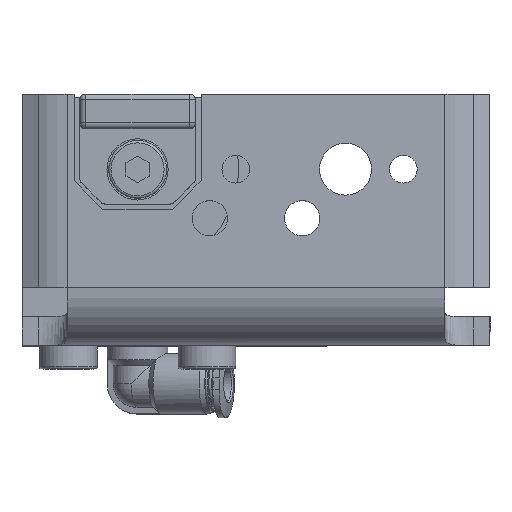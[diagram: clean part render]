
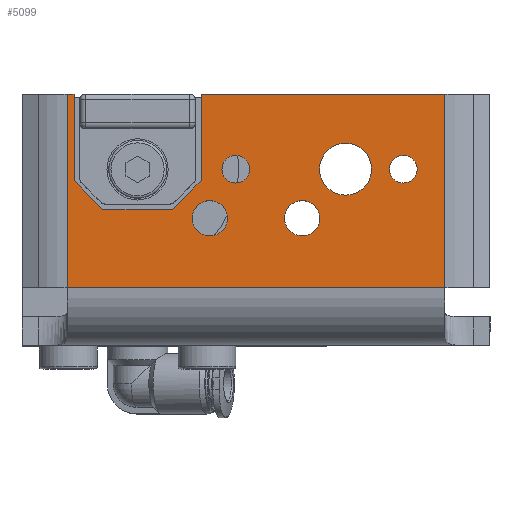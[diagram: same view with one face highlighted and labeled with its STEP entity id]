
A CAD part, top view. The second image highlights one B-rep face of the part: STEP entity #5099.
In plain terms, the highlighted planar face has unit normal (0, 0, 1).
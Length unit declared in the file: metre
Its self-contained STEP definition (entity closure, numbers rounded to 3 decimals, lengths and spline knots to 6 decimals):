
#36 = CARTESIAN_POINT ( 'NONE',  ( -0.011, 0.0385, -0.000106 ) ) ;
#137 = VERTEX_POINT ( 'NONE', #14690 ) ;
#158 = CARTESIAN_POINT ( 'NONE',  ( 0.0285, 0.01395, -0.000106 ) ) ;
#171 = VERTEX_POINT ( 'NONE', #7639 ) ;
#236 = FACE_BOUND ( 'NONE', #7807, .T. ) ;
#305 = CIRCLE ( 'NONE', #13828, 0.00305 ) ;
#331 = LINE ( 'NONE', #11222, #10167 ) ;
#396 = CARTESIAN_POINT ( 'NONE',  ( 0.006, 0.0185, -0.000106 ) ) ;
#506 = DIRECTION ( 'NONE',  ( 0., 0., -1. ) ) ;
#798 = DIRECTION ( 'NONE',  ( -0.707, -0.707, 0. ) ) ;
#1038 = ORIENTED_EDGE ( 'NONE', *, *, #6894, .T. ) ;
#1056 = DIRECTION ( 'NONE',  ( 1., 0., 0. ) ) ;
#1153 = CARTESIAN_POINT ( 'NONE',  ( 0.046, 0.0255, -0.000106 ) ) ;
#1185 = EDGE_CURVE ( 'NONE', #171, #171, #5802, .T. ) ;
#1228 = CARTESIAN_POINT ( 'NONE',  ( 0.036, 0.0255, -0.000106 ) ) ;
#1335 = CARTESIAN_POINT ( 'NONE',  ( 0.046, 0.0231, -0.000106 ) ) ;
#1507 = CIRCLE ( 'NONE', #7751, 0.00305 ) ;
#1533 = CARTESIAN_POINT ( 'NONE',  ( -0.006, 0.0185, -0.000106 ) ) ;
#1560 = VERTEX_POINT ( 'NONE', #396 ) ;
#1568 = PLANE ( 'NONE',  #9442 ) ;
#1958 = ORIENTED_EDGE ( 'NONE', *, *, #12194, .F. ) ;
#2059 = AXIS2_PLACEMENT_3D ( 'NONE', #1153, #10157, #2446 ) ;
#2129 = DIRECTION ( 'NONE',  ( 0., 0., -1. ) ) ;
#2350 = CARTESIAN_POINT ( 'NONE',  ( 0.011, 0.0235, -0.000106 ) ) ;
#2399 = VECTOR ( 'NONE', #798, 1. ) ;
#2446 = DIRECTION ( 'NONE',  ( 0., -1., 0. ) ) ;
#2518 = DIRECTION ( 'NONE',  ( 0., -1., 0. ) ) ;
#2554 = VERTEX_POINT ( 'NONE', #7796 ) ;
#2564 = EDGE_LOOP ( 'NONE', ( #8842 ) ) ;
#2828 = ORIENTED_EDGE ( 'NONE', *, *, #9696, .T. ) ;
#2847 = VECTOR ( 'NONE', #9165, 1. ) ;
#2936 = LINE ( 'NONE', #36, #6735 ) ;
#2943 = ORIENTED_EDGE ( 'NONE', *, *, #11235, .T. ) ;
#3056 = LINE ( 'NONE', #15861, #9076 ) ;
#3111 = LINE ( 'NONE', #7412, #12963 ) ;
#3366 = VERTEX_POINT ( 'NONE', #7819 ) ;
#3616 = FACE_BOUND ( 'NONE', #8964, .T. ) ;
#3666 = DIRECTION ( 'NONE',  ( -1., 0., 0. ) ) ;
#3904 = VERTEX_POINT ( 'NONE', #7062 ) ;
#3974 = CIRCLE ( 'NONE', #14601, 0.0045 ) ;
#4113 = AXIS2_PLACEMENT_3D ( 'NONE', #9839, #2129, #11136 ) ;
#4161 = CARTESIAN_POINT ( 'NONE',  ( 0.05321, 0.038501, -0.000106 ) ) ;
#4305 = DIRECTION ( 'NONE',  ( -0.707, 0.707, 0. ) ) ;
#4421 = CIRCLE ( 'NONE', #2059, 0.0024 ) ;
#4569 = VERTEX_POINT ( 'NONE', #11529 ) ;
#4720 = EDGE_LOOP ( 'NONE', ( #5977 ) ) ;
#5011 = VECTOR ( 'NONE', #3666, 1. ) ;
#5099 = ADVANCED_FACE ( 'NONE', ( #7409, #236, #10486, #3616, #7031, #13514 ), #1568, .T. ) ;
#5181 = LINE ( 'NONE', #2350, #14668 ) ;
#5216 = VECTOR ( 'NONE', #6618, 1. ) ;
#5359 = VERTEX_POINT ( 'NONE', #9499 ) ;
#5424 = CARTESIAN_POINT ( 'NONE',  ( 0.0125, 0.017, -0.000106 ) ) ;
#5431 = LINE ( 'NONE', #6234, #5011 ) ;
#5617 = EDGE_CURVE ( 'NONE', #15257, #15257, #4421, .T. ) ;
#5802 = CIRCLE ( 'NONE', #4113, 0.0024 ) ;
#5813 = LINE ( 'NONE', #12260, #2399 ) ;
#5977 = ORIENTED_EDGE ( 'NONE', *, *, #5617, .T. ) ;
#6226 = LINE ( 'NONE', #7849, #2847 ) ;
#6234 = CARTESIAN_POINT ( 'NONE',  ( -0.006, 0.0185, -0.000106 ) ) ;
#6618 = DIRECTION ( 'NONE',  ( 0., -1., 0. ) ) ;
#6661 = LINE ( 'NONE', #6733, #10096 ) ;
#6717 = DIRECTION ( 'NONE',  ( 0., -1., 0. ) ) ;
#6733 = CARTESIAN_POINT ( 'NONE',  ( -0.01221, 0.038501, -0.000106 ) ) ;
#6735 = VECTOR ( 'NONE', #9011, 1. ) ;
#6878 = VERTEX_POINT ( 'NONE', #14461 ) ;
#6894 = EDGE_CURVE ( 'NONE', #11641, #5359, #6661, .T. ) ;
#6922 = CARTESIAN_POINT ( 'NONE',  ( -0.011, 0.0385, -0.000106 ) ) ;
#7031 = FACE_BOUND ( 'NONE', #4720, .T. ) ;
#7062 = CARTESIAN_POINT ( 'NONE',  ( 0.011, 0.0235, -0.000106 ) ) ;
#7213 = EDGE_CURVE ( 'NONE', #14665, #2554, #3056, .T. ) ;
#7409 = FACE_OUTER_BOUND ( 'NONE', #11629, .T. ) ;
#7412 = CARTESIAN_POINT ( 'NONE',  ( 0.061, 0.0385, -0.000106 ) ) ;
#7490 = EDGE_CURVE ( 'NONE', #137, #4569, #6226, .T. ) ;
#7540 = VERTEX_POINT ( 'NONE', #9082 ) ;
#7639 = CARTESIAN_POINT ( 'NONE',  ( 0.017, 0.0231, -0.000106 ) ) ;
#7751 = AXIS2_PLACEMENT_3D ( 'NONE', #5424, #14441, #6717 ) ;
#7796 = CARTESIAN_POINT ( 'NONE',  ( -0.011, 0.0235, -0.000106 ) ) ;
#7807 = EDGE_LOOP ( 'NONE', ( #12286 ) ) ;
#7819 = CARTESIAN_POINT ( 'NONE',  ( 0.0125, 0.01395, -0.000106 ) ) ;
#7849 = CARTESIAN_POINT ( 'NONE',  ( 0.061, 0.0385, -0.000106 ) ) ;
#8167 = CARTESIAN_POINT ( 'NONE',  ( 0.0285, 0.017, -0.000106 ) ) ;
#8184 = EDGE_CURVE ( 'NONE', #1560, #14665, #5431, .T. ) ;
#8197 = ORIENTED_EDGE ( 'NONE', *, *, #7490, .F. ) ;
#8377 = CARTESIAN_POINT ( 'NONE',  ( -0.01221, 0.0385, -0.000106 ) ) ;
#8490 = EDGE_CURVE ( 'NONE', #4569, #6878, #11669, .T. ) ;
#8716 = EDGE_CURVE ( 'NONE', #3904, #1560, #5813, .T. ) ;
#8842 = ORIENTED_EDGE ( 'NONE', *, *, #1185, .T. ) ;
#8964 = EDGE_LOOP ( 'NONE', ( #11467 ) ) ;
#9011 = DIRECTION ( 'NONE',  ( 0., 1., 0. ) ) ;
#9076 = VECTOR ( 'NONE', #4305, 1. ) ;
#9082 = CARTESIAN_POINT ( 'NONE',  ( 0.036, 0.021, -0.000106 ) ) ;
#9165 = DIRECTION ( 'NONE',  ( 1., 0., 0. ) ) ;
#9339 = DIRECTION ( 'NONE',  ( 0., -1., 0. ) ) ;
#9442 = AXIS2_PLACEMENT_3D ( 'NONE', #11306, #15143, #12588 ) ;
#9481 = DIRECTION ( 'NONE',  ( 0., -1., 0. ) ) ;
#9499 = CARTESIAN_POINT ( 'NONE',  ( -0.01221, 0.005, -0.000106 ) ) ;
#9696 = EDGE_CURVE ( 'NONE', #137, #3904, #5181, .T. ) ;
#9786 = EDGE_CURVE ( 'NONE', #7540, #7540, #3974, .T. ) ;
#9839 = CARTESIAN_POINT ( 'NONE',  ( 0.017, 0.0255, -0.000106 ) ) ;
#10058 = DIRECTION ( 'NONE',  ( 0., -1., 0. ) ) ;
#10096 = VECTOR ( 'NONE', #9339, 1. ) ;
#10157 = DIRECTION ( 'NONE',  ( 0., 0., -1. ) ) ;
#10167 = VECTOR ( 'NONE', #16352, 1. ) ;
#10223 = DIRECTION ( 'NONE',  ( 0., 0., -1. ) ) ;
#10486 = FACE_BOUND ( 'NONE', #14947, .T. ) ;
#11033 = ORIENTED_EDGE ( 'NONE', *, *, #8184, .T. ) ;
#11136 = DIRECTION ( 'NONE',  ( 0., -1., 0. ) ) ;
#11222 = CARTESIAN_POINT ( 'NONE',  ( 0.061, 0.005, -0.000106 ) ) ;
#11235 = EDGE_CURVE ( 'NONE', #5359, #6878, #331, .T. ) ;
#11306 = CARTESIAN_POINT ( 'NONE',  ( 0.061, 0., -0.000106 ) ) ;
#11324 = EDGE_CURVE ( 'NONE', #2554, #15274, #2936, .T. ) ;
#11467 = ORIENTED_EDGE ( 'NONE', *, *, #9786, .T. ) ;
#11478 = ORIENTED_EDGE ( 'NONE', *, *, #8490, .F. ) ;
#11529 = CARTESIAN_POINT ( 'NONE',  ( 0.05321, 0.0385, -0.000106 ) ) ;
#11629 = EDGE_LOOP ( 'NONE', ( #15963, #1958, #1038, #2943, #11478, #8197, #2828, #16459, #11033, #12832 ) ) ;
#11641 = VERTEX_POINT ( 'NONE', #8377 ) ;
#11669 = LINE ( 'NONE', #4161, #5216 ) ;
#12194 = EDGE_CURVE ( 'NONE', #11641, #15274, #3111, .T. ) ;
#12260 = CARTESIAN_POINT ( 'NONE',  ( 0.006, 0.0185, -0.000106 ) ) ;
#12286 = ORIENTED_EDGE ( 'NONE', *, *, #12565, .T. ) ;
#12465 = EDGE_CURVE ( 'NONE', #3366, #3366, #1507, .T. ) ;
#12565 = EDGE_CURVE ( 'NONE', #16650, #16650, #305, .T. ) ;
#12588 = DIRECTION ( 'NONE',  ( 0., -1., 0. ) ) ;
#12832 = ORIENTED_EDGE ( 'NONE', *, *, #7213, .T. ) ;
#12963 = VECTOR ( 'NONE', #1056, 1. ) ;
#13514 = FACE_BOUND ( 'NONE', #2564, .T. ) ;
#13828 = AXIS2_PLACEMENT_3D ( 'NONE', #8167, #506, #9481 ) ;
#14441 = DIRECTION ( 'NONE',  ( 0., 0., -1. ) ) ;
#14461 = CARTESIAN_POINT ( 'NONE',  ( 0.05321, 0.005, -0.000106 ) ) ;
#14601 = AXIS2_PLACEMENT_3D ( 'NONE', #1228, #10223, #2518 ) ;
#14665 = VERTEX_POINT ( 'NONE', #1533 ) ;
#14668 = VECTOR ( 'NONE', #10058, 1. ) ;
#14690 = CARTESIAN_POINT ( 'NONE',  ( 0.011, 0.0385, -0.000106 ) ) ;
#14947 = EDGE_LOOP ( 'NONE', ( #16173 ) ) ;
#15143 = DIRECTION ( 'NONE',  ( 0., 0., 1. ) ) ;
#15257 = VERTEX_POINT ( 'NONE', #1335 ) ;
#15274 = VERTEX_POINT ( 'NONE', #6922 ) ;
#15861 = CARTESIAN_POINT ( 'NONE',  ( -0.011, 0.0235, -0.000106 ) ) ;
#15963 = ORIENTED_EDGE ( 'NONE', *, *, #11324, .T. ) ;
#16173 = ORIENTED_EDGE ( 'NONE', *, *, #12465, .T. ) ;
#16352 = DIRECTION ( 'NONE',  ( 1., 0., 0. ) ) ;
#16459 = ORIENTED_EDGE ( 'NONE', *, *, #8716, .T. ) ;
#16650 = VERTEX_POINT ( 'NONE', #158 ) ;
